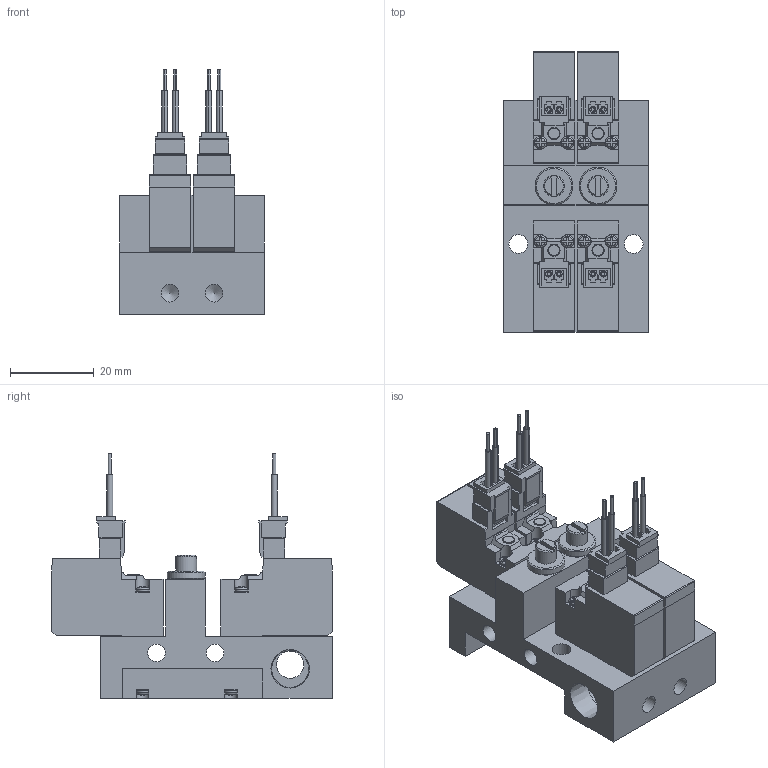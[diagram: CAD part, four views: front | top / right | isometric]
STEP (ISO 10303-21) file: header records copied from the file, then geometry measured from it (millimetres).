
FILE_DESCRIPTION(('STEP AP203'),'1');
FILE_NAME('3-NC-4EZ-M02.stp','2025-05-09T01:00:03',(' '),(' '),'Spatial InterOp 3D',' ',' ');
FILE_SCHEMA(('CONFIG_CONTROL_DESIGN'));
Length unit declared in the file: millimetre
Products named in the file (32): PV1※3-NC-4EZ-M02; BODY; PLATE; NEEDLE; BOLT; SOLENOID VALVE VOLTAGE PV; 42; 45; 48; 51
Assembly tree (31 placements, depth 3):
  PV1※3-NC-4EZ-M02
    BODY
    PLATE
    PLATE
    NEEDLE
    NEEDLE
    BOLT
    BOLT
    BOLT
    BOLT
    BOLT
    BOLT
    SOLENOID VALVE VOLTAGE PV
      42
      45
      48
      51
    SOLENOID VALVE VOLTAGE PV
      42
      45
      48
      51
    SOLENOID VALVE VOLTAGE PV
      42
      45
      48
      51
    SOLENOID VALVE VOLTAGE PV
      42
      45
      48
      51
Bounding box: 34.5 x 66.8 x 58.25 mm (x, y, z)
Volume: 45088.2 mm3; surface area: 25540.8 mm2
Topology: 27 solids, 27 shells, 983 faces, 2786 edges, 1921 vertices
Faces by surface type: plane 692, cylinder 197, torus 52, bspline 28, cone 14
Full cylindrical faces by diameter (mm): 2 x6, 3 x6, 4.2 x6, 4.5 x2, 5 x2, 6.5 x1, 8.797 x2, 9 x2
Entity records: 33974 total; most frequent: CARTESIAN_POINT 6189, DIRECTION 5570, ORIENTED_EDGE 5428, EDGE_CURVE 2714, AXIS2_PLACEMENT_3D 1929, VERTEX_POINT 1900, LINE 1712, VECTOR 1712
